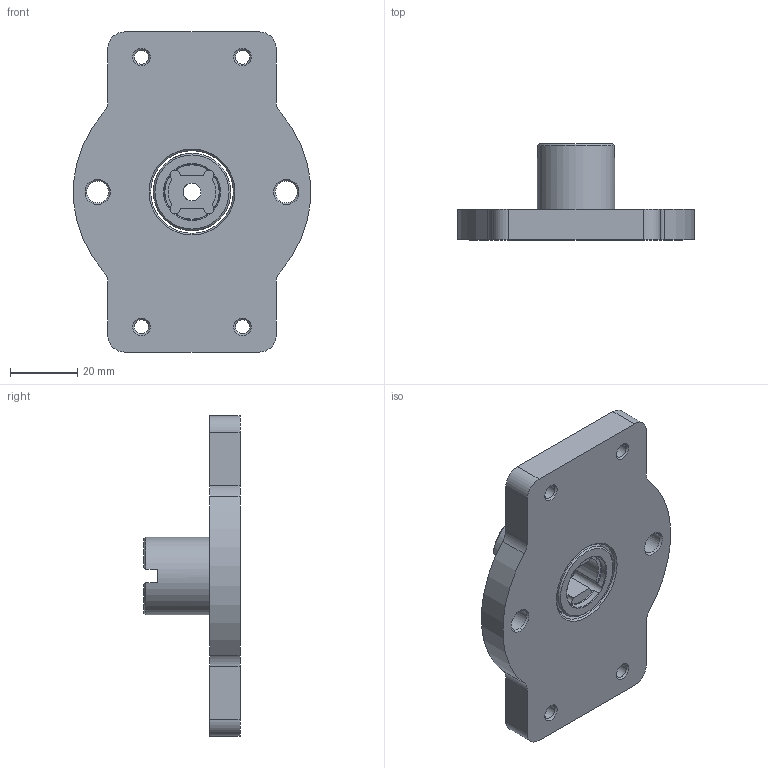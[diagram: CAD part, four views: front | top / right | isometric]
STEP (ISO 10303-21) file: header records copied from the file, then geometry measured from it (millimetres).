
FILE_DESCRIPTION( ( 'STEP AP203' ), '1' );
FILE_NAME( 'p:/temp/worker_27/temp/exporttempdir_2664_483_q4rCH/format_3/E12693.stp', '2021-10-15T07:56:32', ( 'License CC BY-ND 4.0' ), ( 'CADENAS' ), ' ', 'PARTsolutions', ' ' );
FILE_SCHEMA( ( 'CONFIG_CONTROL_DESIGN' ) );
Length unit declared in the file: millimetre
Products named in the file (3): E12693; _E12693_p1_p1; _E12693_p2_p2
Assembly tree (2 placements, depth 2):
  E12693
    _E12693_p1_p1
    _E12693_p2_p2
Bounding box: 70.27 x 28.5 x 95 mm (x, y, z)
Volume: 52479.6 mm3; surface area: 17483.3 mm2
Topology: 2 solids, 2 shells, 82 faces, 215 edges, 137 vertices
Faces by surface type: cylinder 29, plane 28, cone 17, torus 8
Full cylindrical faces by diameter (mm): 4.2 x4, 5.3 x1, 6.5 x2, 23 x1, 24.5 x1
Entity records: 2634 total; most frequent: CARTESIAN_POINT 533, DIRECTION 440, ORIENTED_EDGE 378, EDGE_CURVE 189, AXIS2_PLACEMENT_3D 186, VERTEX_POINT 135, EDGE_LOOP 122, CIRCLE 97
